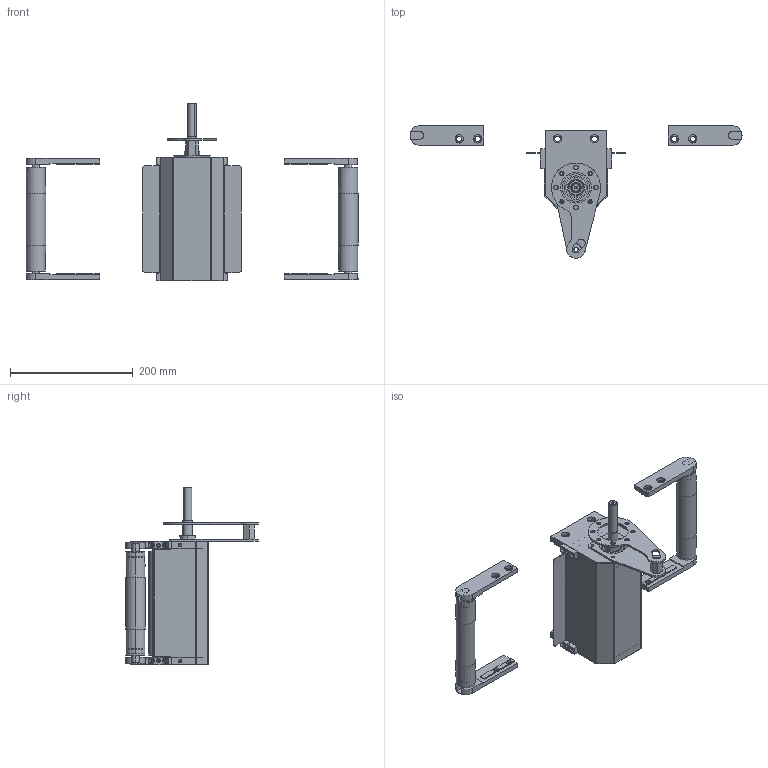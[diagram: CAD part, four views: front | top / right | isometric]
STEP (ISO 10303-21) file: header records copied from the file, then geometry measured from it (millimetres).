
FILE_DESCRIPTION (( 'STEP AP203' ), '1' );
FILE_NAME ('084.031.150.STEP', '2018-09-20T15:30:00', ( 'Localadmin' ), ( 'Microsoft' ), 'SwSTEP 2.0', 'SolidWorks 2018', '' );
FILE_SCHEMA (( 'CONFIG_CONTROL_DESIGN' ));
Length unit declared in the file: millimetre
Products named in the file (20): 084.802.036; 084.031.003; 084.031.150; 356.095.005-4_Default<A macchina>; 084.031.004; 084.802.017_084.802.017; 084.031.005; 084.802.016_084.802.016; 084.031.006; 356.001.004-5; 084.031.007; 356.001.003; 084.807.005; 356.095.003; 084.801.016 DX; 084.031.001_Default<A macchina>; 084.801.022; 084.801.016 SX; 084.031.002; 084.802.027
Assembly tree (37 placements, depth 2):
  084.031.150
    084.031.001_Default<A macchina>
    084.031.002  x2
    084.031.003  x2
    084.031.004
    084.031.005
    084.031.006  x2
    084.031.007  x2
    084.807.005
    084.801.016 DX  x2
    084.801.016 SX  x2
    084.802.036  x8
    356.095.005-4_Default<A macchina>  x2
    084.802.017_084.802.017
    084.802.016_084.802.016
    356.001.004-5
    356.001.003  x2
    356.095.003  x4
    084.801.022
    084.802.027
Bounding box: 540 x 215.9 x 289 mm (x, y, z)
Volume: 918853.3 mm3; surface area: 575135.3 mm2
Topology: 47 solids, 57 shells, 1276 faces, 3014 edges, 1885 vertices
Faces by surface type: cylinder 593, plane 419, torus 164, cone 92, sphere 8
Entity records: 22899 total; most frequent: CARTESIAN_POINT 3922, DIRECTION 3733, ORIENTED_EDGE 3194, EDGE_CURVE 1597, AXIS2_PLACEMENT_3D 1488, VERTEX_POINT 1021, EDGE_LOOP 802, CIRCLE 788
